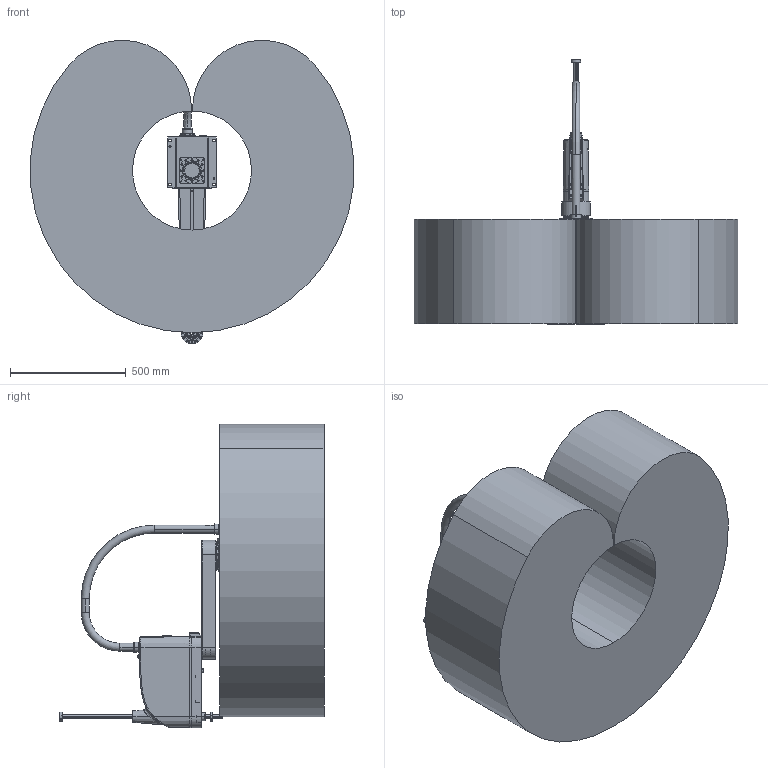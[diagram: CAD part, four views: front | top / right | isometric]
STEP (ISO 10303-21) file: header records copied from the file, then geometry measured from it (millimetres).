
FILE_DESCRIPTION (( 'STEP AP203' ), '1' );
FILE_NAME ('CR7345..STEP', '2023-02-14T07:50:45', ( 'PC' ), ( 'Microsoft' ), 'SwSTEP 2.0', 'SolidWorks 2018', '' );
FILE_SCHEMA (( 'CONFIG_CONTROL_DESIGN' ));
Length unit declared in the file: millimetre
Products named in the file (7): 菁釱_CR7345; X旋_CR7345; Y旋_CR7345; 佪裝_CR7345; 援盄奪_CR7345; 堍雄毓峓_CR7345; CR7345.
Assembly tree (6 placements, depth 2):
  CR7345.
    菁釱_CR7345
    X旋_CR7345
    Y旋_CR7345
    佪裝_CR7345
    援盄奪_CR7345
    堍雄毓峓_CR7345
Bounding box: 1397.28 x 1140 x 1309.88 mm (x, y, z)
Volume: 545023247.3 mm3; surface area: 6638293.1 mm2
Topology: 7 solids, 189 shells, 2045 faces, 6091 edges, 4223 vertices
Faces by surface type: plane 969, cylinder 688, bspline 163, cone 156, torus 67, sphere 2
Entity records: 102816 total; most frequent: CARTESIAN_POINT 49147, DIRECTION 10643, ORIENTED_EDGE 10027, EDGE_CURVE 6018, VERTEX_POINT 4221, AXIS2_PLACEMENT_3D 3754, LINE 3135, VECTOR 3135
